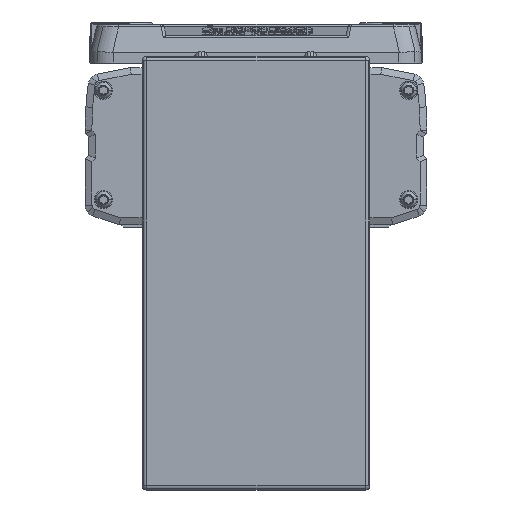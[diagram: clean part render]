
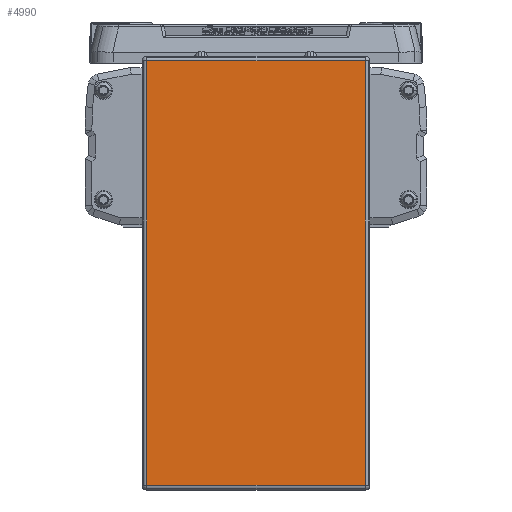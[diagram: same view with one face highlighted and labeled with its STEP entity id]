
A CAD part, left-side view. The second image highlights one B-rep face of the part: STEP entity #4990.
In plain terms, the highlighted planar face has unit normal (-1, 0, 0).
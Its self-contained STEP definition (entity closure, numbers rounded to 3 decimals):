
#4990=ADVANCED_FACE('',(#10732),#10733,.T.);
#10732=FACE_OUTER_BOUND('',#18413,.T.);
#10733=PLANE('',#18414);
#18413=EDGE_LOOP('',(#32843,#32844,#32845,#32846));
#18414=AXIS2_PLACEMENT_3D('',#32847,#32848,#32849);
#32843=ORIENTED_EDGE('',*,*,#42853,.F.);
#32844=ORIENTED_EDGE('',*,*,#45150,.F.);
#32845=ORIENTED_EDGE('',*,*,#45151,.F.);
#32846=ORIENTED_EDGE('',*,*,#44352,.F.);
#32847=CARTESIAN_POINT('',(-45.,0.,-64.2));
#32848=DIRECTION('',(-1.0,0.,0.));
#32849=DIRECTION('',(0.,1.0,0.));
#42853=EDGE_CURVE('',#52362,#52364,#52365,.T.);
#44352=EDGE_CURVE('',#52364,#54483,#54484,.T.);
#45150=EDGE_CURVE('',#53403,#52362,#55532,.T.);
#45151=EDGE_CURVE('',#54483,#53403,#55533,.T.);
#52362=VERTEX_POINT('',#65046);
#52364=VERTEX_POINT('',#65048);
#52365=LINE('',#65049,#65050);
#53403=VERTEX_POINT('',#66489);
#54483=VERTEX_POINT('',#68131);
#54484=LINE('',#68132,#68133);
#55532=LINE('',#69664,#69665);
#55533=LINE('',#69666,#69667);
#65046=CARTESIAN_POINT('',(-45.,48.,29.));
#65048=CARTESIAN_POINT('',(-45.,-48.,29.));
#65049=CARTESIAN_POINT('',(-45.,0.,29.));
#65050=VECTOR('',#76670,10.0);
#66489=CARTESIAN_POINT('',(-45.,48.,-157.4));
#68131=CARTESIAN_POINT('',(-45.,-48.,-157.4));
#68132=CARTESIAN_POINT('',(-45.,-48.,-64.2));
#68133=VECTOR('',#78622,10.0);
#69664=CARTESIAN_POINT('',(-45.,48.,-64.2));
#69665=VECTOR('',#79597,10.0);
#69666=CARTESIAN_POINT('',(-45.,0.,-157.4));
#69667=VECTOR('',#79598,10.0);
#76670=DIRECTION('',(0.0,-1.0,0.));
#78622=DIRECTION('',(0.,0.,-1.0));
#79597=DIRECTION('',(0.,0.,1.0));
#79598=DIRECTION('',(0.0,1.0,0.));
